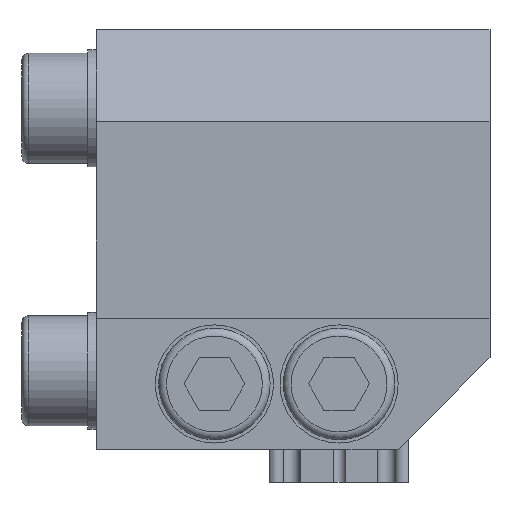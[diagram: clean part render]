
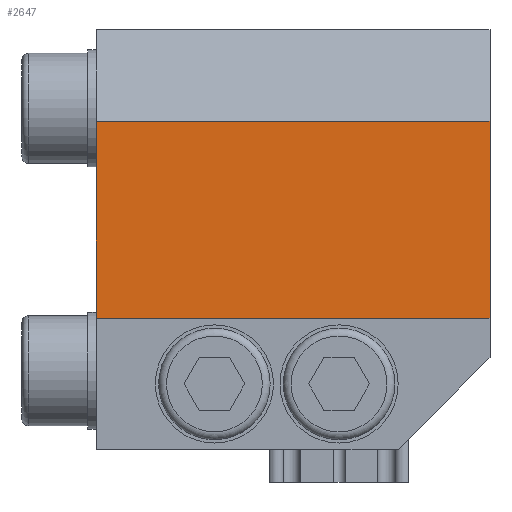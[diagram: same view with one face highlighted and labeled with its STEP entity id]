
A CAD part, left-side view. The second image highlights one B-rep face of the part: STEP entity #2647.
In plain terms, the highlighted planar face has unit normal (-1, 0, 0).
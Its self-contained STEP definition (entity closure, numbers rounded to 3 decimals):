
#31 = LINE ( 'NONE', #3067, #956 ) ;
#106 = VERTEX_POINT ( 'NONE', #754 ) ;
#652 = CARTESIAN_POINT ( 'NONE',  ( -22.5, 15., 16. ) ) ;
#754 = CARTESIAN_POINT ( 'NONE',  ( -22.5, -15., 9. ) ) ;
#908 = VERTEX_POINT ( 'NONE', #2317 ) ;
#956 = VECTOR ( 'NONE', #1014, 1000. ) ;
#1014 = DIRECTION ( 'NONE',  ( 0., 1., 0. ) ) ;
#1409 = LINE ( 'NONE', #1781, #3707 ) ;
#1588 = DIRECTION ( 'NONE',  ( 0., 1., 0. ) ) ;
#1655 = EDGE_LOOP ( 'NONE', ( #2809, #2765, #2885, #3759 ) ) ;
#1659 = CARTESIAN_POINT ( 'NONE',  ( -22.5, 15., 16. ) ) ;
#1721 = EDGE_CURVE ( 'NONE', #908, #2267, #3674, .T. ) ;
#1781 = CARTESIAN_POINT ( 'NONE',  ( -22.5, 15., -6. ) ) ;
#1952 = CARTESIAN_POINT ( 'NONE',  ( -22.5, 15., -6. ) ) ;
#1958 = AXIS2_PLACEMENT_3D ( 'NONE', #1659, #2277, #1588 ) ;
#1990 = PLANE ( 'NONE',  #1958 ) ;
#2004 = DIRECTION ( 'NONE',  ( 0., 0., -1. ) ) ;
#2267 = VERTEX_POINT ( 'NONE', #1952 ) ;
#2277 = DIRECTION ( 'NONE',  ( 1., 0., 0. ) ) ;
#2317 = CARTESIAN_POINT ( 'NONE',  ( -22.5, 15., 9. ) ) ;
#2410 = EDGE_CURVE ( 'NONE', #106, #908, #31, .T. ) ;
#2539 = CARTESIAN_POINT ( 'NONE',  ( -22.5, -15., 16. ) ) ;
#2647 = ADVANCED_FACE ( 'NONE', ( #4314 ), #1990, .F. ) ;
#2743 = VERTEX_POINT ( 'NONE', #3634 ) ;
#2759 = DIRECTION ( 'NONE',  ( 0., 1., 0. ) ) ;
#2765 = ORIENTED_EDGE ( 'NONE', *, *, #3953, .F. ) ;
#2809 = ORIENTED_EDGE ( 'NONE', *, *, #1721, .T. ) ;
#2885 = ORIENTED_EDGE ( 'NONE', *, *, #3745, .F. ) ;
#2935 = VECTOR ( 'NONE', #3867, 1000. ) ;
#3067 = CARTESIAN_POINT ( 'NONE',  ( -22.5, 15., 9. ) ) ;
#3634 = CARTESIAN_POINT ( 'NONE',  ( -22.5, -15., -6. ) ) ;
#3674 = LINE ( 'NONE', #652, #4286 ) ;
#3707 = VECTOR ( 'NONE', #2759, 1000. ) ;
#3745 = EDGE_CURVE ( 'NONE', #106, #2743, #4306, .T. ) ;
#3759 = ORIENTED_EDGE ( 'NONE', *, *, #2410, .T. ) ;
#3867 = DIRECTION ( 'NONE',  ( 0., 0., -1. ) ) ;
#3953 = EDGE_CURVE ( 'NONE', #2743, #2267, #1409, .T. ) ;
#4286 = VECTOR ( 'NONE', #2004, 1000. ) ;
#4306 = LINE ( 'NONE', #2539, #2935 ) ;
#4314 = FACE_OUTER_BOUND ( 'NONE', #1655, .T. ) ;
